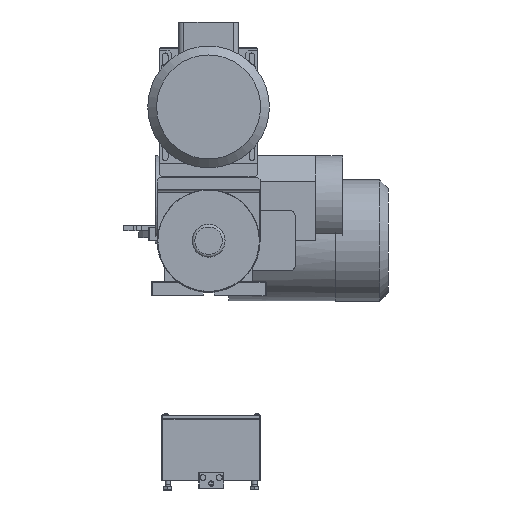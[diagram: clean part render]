
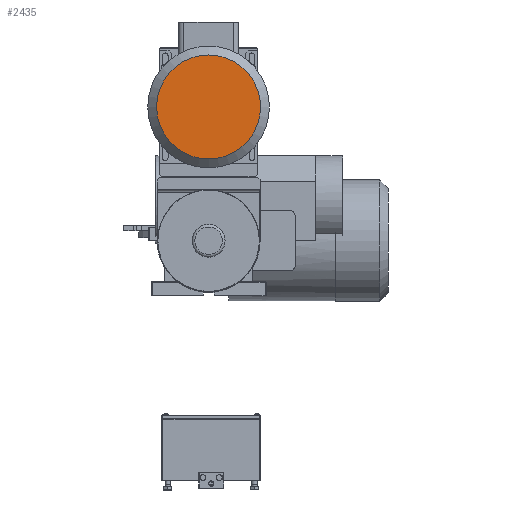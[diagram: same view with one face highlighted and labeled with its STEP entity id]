
A CAD part, front view. The second image highlights one B-rep face of the part: STEP entity #2435.
In plain terms, the highlighted planar face has unit normal (0, -1, 0) as drawn and (1, 0, 0) by its records, which use the part's own axes.
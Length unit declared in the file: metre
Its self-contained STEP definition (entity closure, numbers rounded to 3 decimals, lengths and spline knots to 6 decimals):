
#2435 = ADVANCED_FACE( '', ( #4190 ), #4191, .T. );
#4190 = FACE_OUTER_BOUND( '', #6336, .T. );
#4191 = PLANE( '', #6337 );
#6336 = EDGE_LOOP( '', ( #11188 ) );
#6337 = AXIS2_PLACEMENT_3D( '', #11189, #11190, #11191 );
#11188 = ORIENTED_EDGE( '', *, *, #12660, .T. );
#11189 = CARTESIAN_POINT( '', ( 0.328, 0.0555, 0. ) );
#11190 = DIRECTION( '', ( 1., 0., 0. ) );
#11191 = DIRECTION( '', ( 0., 0., 1. ) );
#12660 = EDGE_CURVE( '', #14928, #14928, #14929, .T. );
#14928 = VERTEX_POINT( '', #19073 );
#14929 = CIRCLE( '', #19074, 0.094833 );
#19073 = CARTESIAN_POINT( '', ( 0.328, 0.094833, 0. ) );
#19074 = AXIS2_PLACEMENT_3D( '', #21126, #21127, #21128 );
#21126 = CARTESIAN_POINT( '', ( 0.328, 0., 0. ) );
#21127 = DIRECTION( '', ( 1., 0., 0. ) );
#21128 = DIRECTION( '', ( 0., 1., 0. ) );
